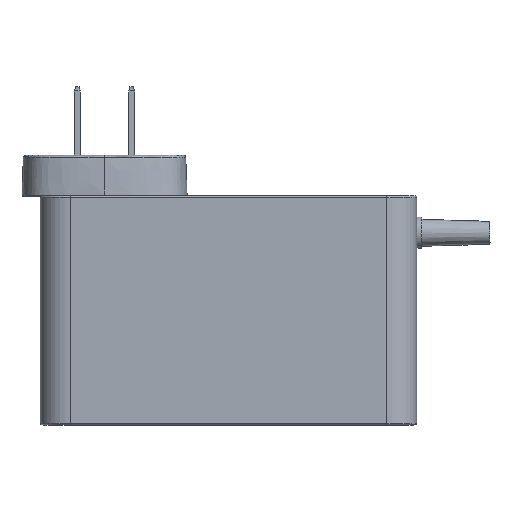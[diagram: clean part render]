
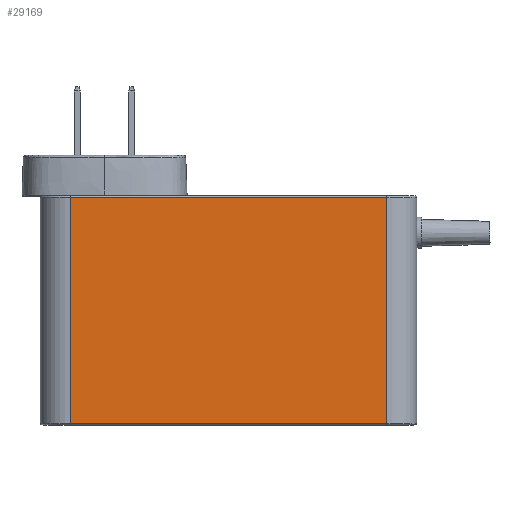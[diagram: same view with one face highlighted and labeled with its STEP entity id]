
A CAD part, top view. The second image highlights one B-rep face of the part: STEP entity #29169.
In plain terms, the highlighted planar face has unit normal (0, 0, 1).
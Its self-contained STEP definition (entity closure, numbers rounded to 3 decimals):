
#26083=DIRECTION('',(1.,0.,0.));
#26084=VECTOR('',#26083,74.);
#26085=CARTESIAN_POINT('',(-37.,-53.2,13.75));
#26086=LINE('',#26085,#26084);
#26337=DIRECTION('',(0.,1.,0.));
#26338=VECTOR('',#26337,52.9);
#26339=CARTESIAN_POINT('',(37.,-53.2,13.75));
#26340=LINE('',#26339,#26338);
#26356=DIRECTION('',(-1.,0.,0.));
#26357=VECTOR('',#26356,74.);
#26358=CARTESIAN_POINT('',(37.,-0.3,13.75));
#26359=LINE('',#26358,#26357);
#26364=DIRECTION('',(0.,-1.,0.));
#26365=VECTOR('',#26364,52.9);
#26366=CARTESIAN_POINT('',(-37.,-0.3,13.75));
#26367=LINE('',#26366,#26365);
#28086=CARTESIAN_POINT('',(37.,-53.2,13.75));
#28087=VERTEX_POINT('',#28086);
#28088=CARTESIAN_POINT('',(-37.,-53.2,13.75));
#28089=VERTEX_POINT('',#28088);
#28160=CARTESIAN_POINT('',(37.,-0.3,13.75));
#28161=VERTEX_POINT('',#28160);
#28162=CARTESIAN_POINT('',(-37.,-0.3,13.75));
#28163=VERTEX_POINT('',#28162);
#29157=CARTESIAN_POINT('',(-37.,0.,13.75));
#29158=DIRECTION('',(0.,0.,1.));
#29159=DIRECTION('',(0.,-1.,0.));
#29160=AXIS2_PLACEMENT_3D('',#29157,#29158,#29159);
#29161=PLANE('',#29160);
#29162=ORIENTED_EDGE('',*,*,#29148,.F.);
#29163=ORIENTED_EDGE('',*,*,#29124,.F.);
#29164=ORIENTED_EDGE('',*,*,#28869,.F.);
#29166=ORIENTED_EDGE('',*,*,#29165,.F.);
#29167=EDGE_LOOP('',(#29162,#29163,#29164,#29166));
#29168=FACE_OUTER_BOUND('',#29167,.F.);
#28869=EDGE_CURVE('',#28089,#28087,#26086,.T.);
#29124=EDGE_CURVE('',#28087,#28161,#26340,.T.);
#29148=EDGE_CURVE('',#28161,#28163,#26359,.T.);
#29165=EDGE_CURVE('',#28163,#28089,#26367,.T.);
#29169=ADVANCED_FACE('',(#29168),#29161,.T.);
